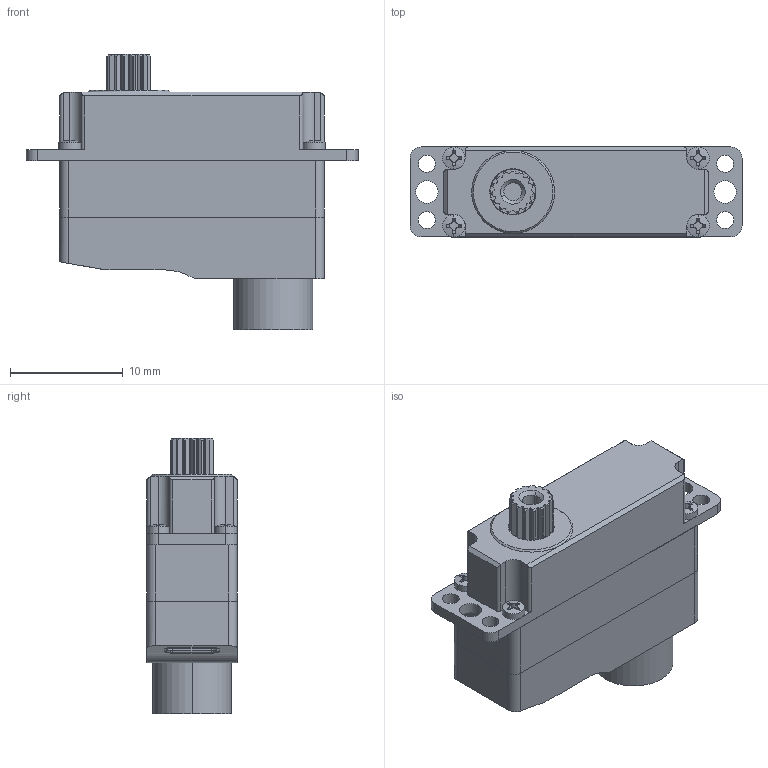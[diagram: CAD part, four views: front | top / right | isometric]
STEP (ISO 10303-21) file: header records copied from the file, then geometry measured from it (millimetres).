
FILE_DESCRIPTION (( 'STEP AP214' ), '1' );
FILE_NAME ('X08-3.2_DM_20231028.STEP', '2023-10-28T05:27:09', ( '' ), ( '' ), 'SwSTEP 2.0', 'SolidWorks 2016', '' );
FILE_SCHEMA (( 'AUTOMOTIVE_DESIGN' ));
Length unit declared in the file: millimetre
Products named in the file (1): X08-3.2_DM_20231028
Bounding box: 29.5 x 8 x 24.45 mm (x, y, z)
Surface area: 2422.7 mm2 (no closed solid volume)
Topology: 0 solids, 10 shells, 291 faces, 921 edges, 632 vertices
Faces by surface type: cylinder 132, plane 126, cone 19, sphere 8, bspline 6
Entity records: 14224 total; most frequent: CARTESIAN_POINT 2942, ORIENTED_EDGE 1678, DIRECTION 1667, EDGE_CURVE 921, VERTEX_POINT 632, AXIS2_PLACEMENT_3D 611, LINE 445, VECTOR 445
